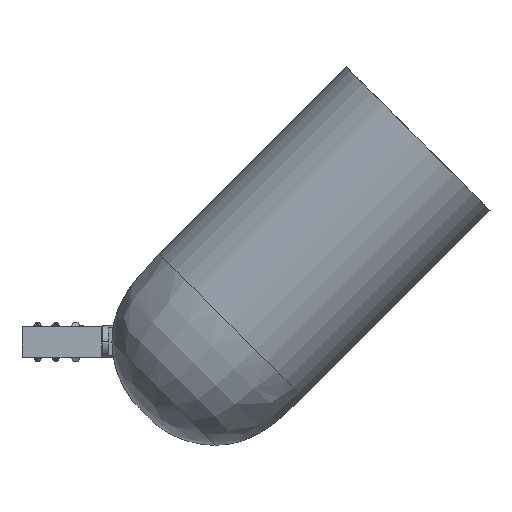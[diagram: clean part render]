
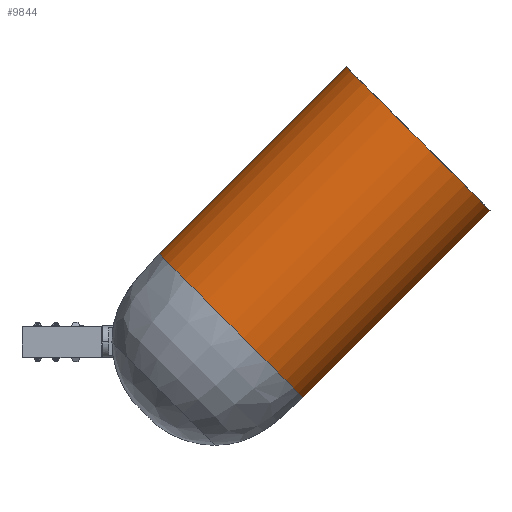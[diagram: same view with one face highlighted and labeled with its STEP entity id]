
A CAD part, left-side view. The second image highlights one B-rep face of the part: STEP entity #9844.
In plain terms, the highlighted cylindrical face has radius 22.5 mm (diameter 45 mm), a partial arc.
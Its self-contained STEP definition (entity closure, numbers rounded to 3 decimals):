
#5215 = EDGE_LOOP ( 'NONE', ( #26941, #62256, #48763, #36190 ) ) ;
#5298 = AXIS2_PLACEMENT_3D ( 'NONE', #58561, #31838, #53301 ) ;
#9844 = ADVANCED_FACE ( 'NONE', ( #15350 ), #58231, .T. ) ;
#10070 = DIRECTION ( 'NONE',  ( 0., 1., 0. ) ) ;
#11582 = CIRCLE ( 'NONE', #20562, 22.5 ) ;
#15350 = FACE_OUTER_BOUND ( 'NONE', #5215, .T. ) ;
#17451 = AXIS2_PLACEMENT_3D ( 'NONE', #57898, #10070, #31485 ) ;
#20562 = AXIS2_PLACEMENT_3D ( 'NONE', #37073, #42371, #52564 ) ;
#23331 = LINE ( 'NONE', #59527, #52211 ) ;
#23893 = VECTOR ( 'NONE', #32234, 1000. ) ;
#23953 = CARTESIAN_POINT ( 'NONE',  ( 22.5, 86., 0. ) ) ;
#26941 = ORIENTED_EDGE ( 'NONE', *, *, #69532, .T. ) ;
#28227 = DIRECTION ( 'NONE',  ( 0., -1., 0. ) ) ;
#30270 = CARTESIAN_POINT ( 'NONE',  ( 22.5, 27.5, 0. ) ) ;
#31485 = DIRECTION ( 'NONE',  ( 1., 0., 0. ) ) ;
#31838 = DIRECTION ( 'NONE',  ( 0., -1., 0. ) ) ;
#32234 = DIRECTION ( 'NONE',  ( 0., -1., 0. ) ) ;
#36190 = ORIENTED_EDGE ( 'NONE', *, *, #61640, .F. ) ;
#37073 = CARTESIAN_POINT ( 'NONE',  ( 0., 86., 0. ) ) ;
#42371 = DIRECTION ( 'NONE',  ( 0., -1., 0. ) ) ;
#46801 = CIRCLE ( 'NONE', #5298, 22.5 ) ;
#48371 = CARTESIAN_POINT ( 'NONE',  ( -22.5, 86., 0. ) ) ;
#48744 = LINE ( 'NONE', #48371, #23893 ) ;
#48763 = ORIENTED_EDGE ( 'NONE', *, *, #67054, .F. ) ;
#50610 = EDGE_CURVE ( 'NONE', #51667, #58420, #23331, .T. ) ;
#51667 = VERTEX_POINT ( 'NONE', #23953 ) ;
#52211 = VECTOR ( 'NONE', #28227, 1000. ) ;
#52564 = DIRECTION ( 'NONE',  ( -1., 0., 0. ) ) ;
#53301 = DIRECTION ( 'NONE',  ( -1., 0., 0. ) ) ;
#56311 = VERTEX_POINT ( 'NONE', #66465 ) ;
#57898 = CARTESIAN_POINT ( 'NONE',  ( 0., -4.3, 0. ) ) ;
#58231 = CYLINDRICAL_SURFACE ( 'NONE', #17451, 22.5 ) ;
#58420 = VERTEX_POINT ( 'NONE', #30270 ) ;
#58561 = CARTESIAN_POINT ( 'NONE',  ( 0., 27.5, 0. ) ) ;
#59527 = CARTESIAN_POINT ( 'NONE',  ( 22.5, 86., 0. ) ) ;
#60318 = CARTESIAN_POINT ( 'NONE',  ( -22.5, 27.5, 0. ) ) ;
#61640 = EDGE_CURVE ( 'NONE', #56311, #64313, #48744, .T. ) ;
#62256 = ORIENTED_EDGE ( 'NONE', *, *, #50610, .T. ) ;
#64313 = VERTEX_POINT ( 'NONE', #60318 ) ;
#66465 = CARTESIAN_POINT ( 'NONE',  ( -22.5, 86., 0. ) ) ;
#67054 = EDGE_CURVE ( 'NONE', #64313, #58420, #46801, .T. ) ;
#69532 = EDGE_CURVE ( 'NONE', #56311, #51667, #11582, .T. ) ;
